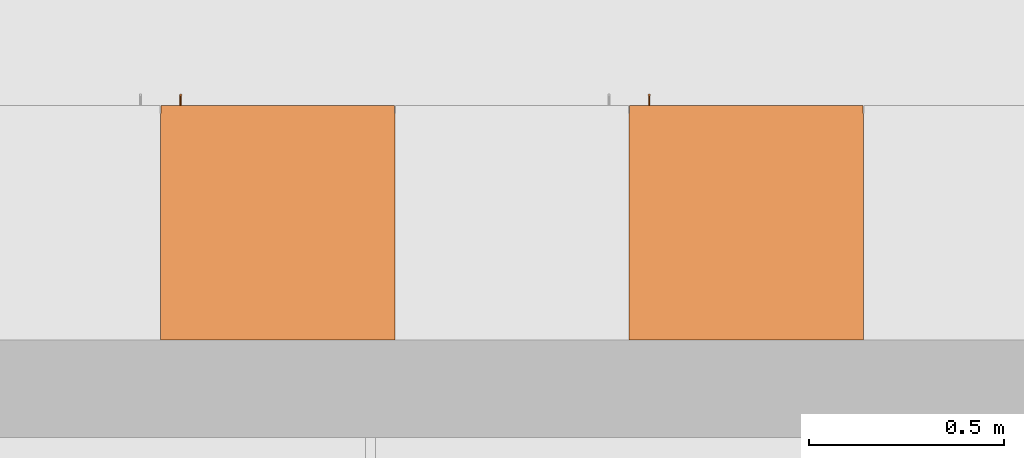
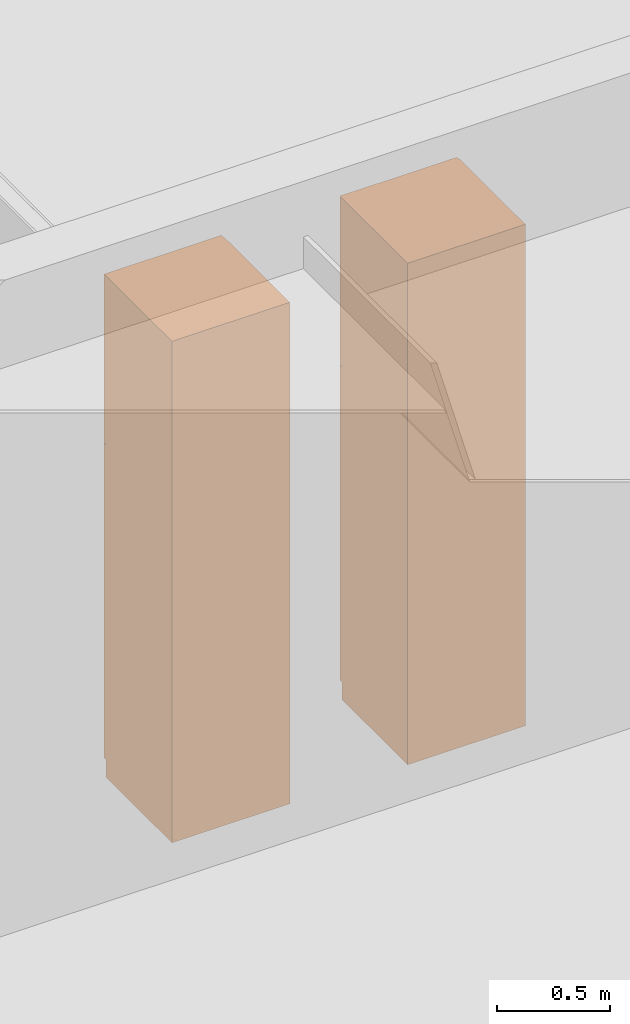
# One storey, part 98 of 167: 2 proxies.
"""IFC2X3 building model written with IfcOpenShell, lengths in millimetres."""

from ifc_helpers import new_model, entity, si_unit, converted_unit, derived_unit, money_unit, direction, frame, origin_with_axes, place, context, subcontext, project, spatial, open_shell, faceted_brep, surface_model, source, transform, mapped, type_object, type_shapes, element, save


model = new_model("IFC2X3")

# Units and contexts
model_context = context("Model", 3, precision=0.01, world=origin_with_axes(), true_north=direction((0.0, 1.0)))
plan_context = context("Plan", 3, precision=0.01, world=origin_with_axes(), true_north=direction((0.0, 1.0)))
body_context = subcontext(model_context, "Body", "Model", "MODEL_VIEW")
ifc_project = project(units=[si_unit("LENGTHUNIT", "METRE", prefix="MILLI"), si_unit("AREAUNIT", "SQUARE_METRE"), si_unit("VOLUMEUNIT", "CUBIC_METRE"), converted_unit("PLANEANGLEUNIT", "DEGREE", entity("IfcPlaneAngleMeasure", 0.0174532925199), si_unit("PLANEANGLEUNIT", "RADIAN"), dimensions=[0, 0, 0, 0, 0, 0, 0]), si_unit("SOLIDANGLEUNIT", "STERADIAN"), money_unit("EUR"), converted_unit("TIMEUNIT", "Year", entity("IfcTimeMeasure", 31556926.0), si_unit("TIMEUNIT", "SECOND"), dimensions=[0, 0, 1, 0, 0, 0, 0]), si_unit("MASSUNIT", "GRAM", prefix="KILO"), si_unit("THERMODYNAMICTEMPERATUREUNIT", "DEGREE_CELSIUS"), si_unit("LUMINOUSINTENSITYUNIT", "LUMEN"), si_unit("ENERGYUNIT", "JOULE", prefix="MEGA"), derived_unit("THERMALCONDUCTANCEUNIT", [(si_unit("POWERUNIT", "WATT"), 1), (si_unit("LENGTHUNIT", "METRE"), -1), (si_unit("THERMODYNAMICTEMPERATUREUNIT", "KELVIN"), -1)]), derived_unit("SPECIFICHEATCAPACITYUNIT", [(si_unit("ENERGYUNIT", "JOULE"), 1), (si_unit("MASSUNIT", "GRAM", prefix="KILO"), -1), (si_unit("THERMODYNAMICTEMPERATUREUNIT", "KELVIN"), -1)]), derived_unit("MASSDENSITYUNIT", [(si_unit("MASSUNIT", "GRAM", prefix="KILO"), 1), (si_unit("VOLUMEUNIT", "CUBIC_METRE"), -1)])], contexts=[model_context, plan_context])

# Site, building, storey
site_placement = place(None, origin_with_axes())
site = spatial("IfcSite", under=ifc_project, at=site_placement, Name="Site", CompositionType="ELEMENT")
building_placement = place(site_placement, origin_with_axes())
building = spatial("IfcBuilding", under=site, at=building_placement, Name="Naam gebouw", CompositionType="ELEMENT")
storey_placement = place(building_placement, origin_with_axes())
storey = spatial("IfcBuildingStorey", under=building, at=storey_placement, Name="Begane grond", CompositionType="ELEMENT", Elevation=0.0)

# Proxies
building_element_proxy_type = type_object("IfcBuildingElementProxyType", Name="Kast hoog 1D 24", PredefinedType="NOTDEFINED")
shared_shape = source(origin_with_axes(), body_context, "Body", "SurfaceModel", [
    faceted_brep([(20.0, 20.0, 1780.0), (580.0, 20.0, 1780.0), (580.0, 20.0, 1800.0), (20.0, 20.0, 1800.0), (20.0, 580.0, 1780.0), (580.0, 580.0, 1780.0), (580.0, 580.0, 1800.0), (20.0, 580.0, 1800.0)], [[[0, 1, 2, 3]], [[0, 4, 5, 1]], [[1, 5, 6, 2]], [[3, 2, 6, 7]], [[4, 0, 3, 7]], [[5, 4, 7, 6]]]),
    faceted_brep([(0.0, 20.0, 0.0), (600.0, 20.0, 0.0), (600.0, 20.0, 90.0), (0.0, 20.0, 90.0), (0.0, 600.0, 0.0), (600.0, 600.0, 0.0), (600.0, 600.0, 90.0), (0.0, 600.0, 90.0)], [[[0, 1, 2, 3]], [[0, 4, 5, 1]], [[1, 5, 6, 2]], [[3, 2, 6, 7]], [[4, 0, 3, 7]], [[5, 4, 7, 6]]]),
    faceted_brep([(0.0, 20.0, 2680.0), (20.0, 20.0, 2680.0), (20.0, 20.0, 2700.0), (0.0, 20.0, 2700.0), (0.0, 600.0, 2680.0), (20.0, 600.0, 2680.0), (580.0, 600.0, 2680.0), (600.0, 600.0, 2680.0), (600.0, 20.0, 2680.0), (580.0, 20.0, 2680.0), (580.0, 20.0, 2700.0), (600.0, 20.0, 2700.0), (600.0, 600.0, 2700.0), (580.0, 600.0, 2700.0), (20.0, 600.0, 2700.0), (0.0, 600.0, 2700.0)], [[[0, 1, 2, 3]], [[0, 4, 5, 6, 7, 8, 9, 1]], [[1, 9, 10, 2]], [[3, 2, 10, 11, 12, 13, 14, 15]], [[4, 0, 3, 15]], [[5, 4, 15, 14]], [[6, 5, 14, 13]], [[7, 6, 13, 12]], [[8, 7, 12, 11]], [[9, 8, 11, 10]]]),
    faceted_brep([(0.0, 20.0, 90.0), (20.0, 20.0, 90.0), (20.0, 20.0, 110.0), (0.0, 20.0, 110.0), (0.0, 600.0, 90.0), (20.0, 600.0, 90.0), (580.0, 600.0, 90.0), (600.0, 600.0, 90.0), (600.0, 20.0, 90.0), (580.0, 20.0, 90.0), (580.0, 20.0, 110.0), (600.0, 20.0, 110.0), (600.0, 600.0, 110.0), (580.0, 600.0, 110.0), (20.0, 600.0, 110.0), (0.0, 600.0, 110.0)], [[[0, 1, 2, 3]], [[0, 4, 5, 6, 7, 8, 9, 1]], [[1, 9, 10, 2]], [[3, 2, 10, 11, 12, 13, 14, 15]], [[4, 0, 3, 15]], [[5, 4, 15, 14]], [[6, 5, 14, 13]], [[7, 6, 13, 12]], [[8, 7, 12, 11]], [[9, 8, 11, 10]]]),
    faceted_brep([(0.0, 20.0, 110.0), (20.0, 20.0, 110.0), (20.0, 20.0, 2680.0), (0.0, 20.0, 2680.0), (0.0, 600.0, 110.0), (600.0, 600.0, 110.0), (600.0, 20.0, 110.0), (580.0, 20.0, 110.0), (580.0, 580.0, 110.0), (20.0, 580.0, 110.0), (20.0, 580.0, 2680.0), (580.0, 580.0, 2680.0), (580.0, 20.0, 2680.0), (600.0, 20.0, 2680.0), (600.0, 600.0, 2680.0), (0.0, 600.0, 2680.0)], [[[0, 1, 2, 3]], [[0, 4, 5, 6, 7, 8, 9, 1]], [[1, 9, 10, 2]], [[3, 2, 10, 11, 12, 13, 14, 15]], [[4, 0, 3, 15]], [[5, 4, 15, 14]], [[6, 5, 14, 13]], [[7, 6, 13, 12]], [[8, 7, 12, 11]], [[9, 8, 11, 10]]]),
    faceted_brep([(580.0, 20.0, 414.0), (580.0, 580.0, 414.0), (580.0, 580.0, 434.0), (580.0, 20.0, 434.0), (20.0, 20.0, 414.0), (20.0, 580.0, 414.0), (20.0, 580.0, 434.0), (20.0, 20.0, 434.0)], [[[0, 1, 2, 3]], [[0, 4, 5, 1]], [[1, 5, 6, 2]], [[3, 2, 6, 7]], [[4, 0, 3, 7]], [[5, 4, 7, 6]]]),
    faceted_brep([(580.0, 20.0, 758.0), (580.0, 580.0, 758.0), (580.0, 580.0, 778.0), (580.0, 20.0, 778.0), (20.0, 20.0, 758.0), (20.0, 580.0, 758.0), (20.0, 580.0, 778.0), (20.0, 20.0, 778.0)], [[[0, 1, 2, 3]], [[0, 4, 5, 1]], [[1, 5, 6, 2]], [[3, 2, 6, 7]], [[4, 0, 3, 7]], [[5, 4, 7, 6]]]),
    faceted_brep([(580.0, 20.0, 1102.0), (580.0, 580.0, 1102.0), (580.0, 580.0, 1122.0), (580.0, 20.0, 1122.0), (20.0, 20.0, 1102.0), (20.0, 580.0, 1102.0), (20.0, 580.0, 1122.0), (20.0, 20.0, 1122.0)], [[[0, 1, 2, 3]], [[0, 4, 5, 1]], [[1, 5, 6, 2]], [[3, 2, 6, 7]], [[4, 0, 3, 7]], [[5, 4, 7, 6]]]),
    faceted_brep([(580.0, 20.0, 1446.0), (580.0, 580.0, 1446.0), (580.0, 580.0, 1466.0), (580.0, 20.0, 1466.0), (20.0, 20.0, 1446.0), (20.0, 580.0, 1446.0), (20.0, 580.0, 1466.0), (20.0, 20.0, 1466.0)], [[[0, 1, 2, 3]], [[0, 4, 5, 1]], [[1, 5, 6, 2]], [[3, 2, 6, 7]], [[4, 0, 3, 7]], [[5, 4, 7, 6]]]),
    faceted_brep([(1.5, 20.0, 91.5), (598.5, 20.0, 91.5), (598.5, 0.0, 91.5), (1.5, 0.0, 91.5), (1.5, 20.0, 1788.5), (598.5, 20.0, 1788.5), (598.5, 0.0, 1788.5), (1.5, 0.0, 1788.5)], [[[0, 1, 2, 3]], [[0, 4, 5, 1]], [[1, 5, 6, 2]], [[3, 2, 6, 7]], [[4, 0, 3, 7]], [[5, 4, 7, 6]]]),
    faceted_brep([(551.397777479, -27.7764571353, 891.5), (551.098076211, -28.5, 891.5), (550.621320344, -29.1213203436, 891.5), (550.0, -29.5980762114, 891.5), (549.276457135, -29.8977774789, 891.5), (548.5, -30.0, 891.5), (547.723542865, -29.8977774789, 891.5), (547.0, -29.5980762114, 891.5), (546.378679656, -29.1213203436, 891.5), (545.901923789, -28.5, 891.5), (545.602222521, -27.7764571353, 891.5), (545.5, -27.0, 891.5), (545.602222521, -26.2235428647, 891.5), (545.901923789, -25.5, 891.5), (546.378679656, -24.8786796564, 891.5), (547.0, -24.4019237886, 891.5), (547.723542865, -24.1022225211, 891.5), (548.5, -24.0, 891.5), (549.276457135, -24.1022225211, 891.5), (550.0, -24.4019237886, 891.5), (550.621320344, -24.8786796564, 891.5), (551.098076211, -25.5, 891.5), (551.397777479, -26.2235428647, 891.5), (551.5, -27.0, 891.5), (551.397777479, -27.7764571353, 1141.5), (551.098076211, -28.5, 1141.5), (550.621320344, -29.1213203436, 1141.5), (550.0, -29.5980762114, 1141.5), (549.276457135, -29.8977774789, 1141.5), (548.5, -30.0, 1141.5), (547.723542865, -29.8977774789, 1141.5), (547.0, -29.5980762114, 1141.5), (546.378679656, -29.1213203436, 1141.5), (545.901923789, -28.5, 1141.5), (545.602222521, -27.7764571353, 1141.5), (545.5, -27.0, 1141.5), (545.602222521, -26.2235428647, 1141.5), (545.901923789, -25.5, 1141.5), (546.378679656, -24.8786796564, 1141.5), (547.0, -24.4019237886, 1141.5), (547.723542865, -24.1022225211, 1141.5), (548.5, -24.0, 1141.5), (549.276457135, -24.1022225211, 1141.5), (550.0, -24.4019237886, 1141.5), (550.621320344, -24.8786796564, 1141.5), (551.098076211, -25.5, 1141.5), (551.397777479, -26.2235428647, 1141.5), (551.5, -27.0, 1141.5)], [[[0, 1, 2, 3, 4, 5, 6, 7, 8, 9, 10, 11, 12, 13, 14, 15, 16, 17, 18, 19, 20, 21, 22, 23]], [[1, 0, 24, 25]], [[2, 1, 25, 26]], [[3, 2, 26, 27]], [[4, 3, 27, 28]], [[5, 4, 28, 29]], [[6, 5, 29, 30]], [[7, 6, 30, 31]], [[8, 7, 31, 32]], [[9, 8, 32, 33]], [[10, 9, 33, 34]], [[11, 10, 34, 35]], [[12, 11, 35, 36]], [[13, 12, 36, 37]], [[14, 13, 37, 38]], [[15, 14, 38, 39]], [[16, 15, 39, 40]], [[17, 16, 40, 41]], [[18, 17, 41, 42]], [[19, 18, 42, 43]], [[20, 19, 43, 44]], [[21, 20, 44, 45]], [[22, 21, 45, 46]], [[23, 22, 46, 47]], [[0, 23, 47, 24]], [[24, 47, 46, 45, 44, 43, 42, 41, 40, 39, 38, 37, 36, 35, 34, 33, 32, 31, 30, 29, 28, 27, 26, 25]]]),
    surface_model("IfcShellBasedSurfaceModel", [(549.147047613, -24.070609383, 914.085185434), (548.5, -24.0, 914.0), (548.5, 0.0, 914.0), (549.147047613, 0.0, 914.085185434), (547.852952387, -24.070609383, 914.085185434), (547.852952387, 0.0, 914.085185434), (547.25, 0.0, 914.334936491), (546.732233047, 0.0, 914.732233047), (546.334936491, 0.0, 915.25), (546.085185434, 0.0, 915.852952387), (546.0, 0.0, 916.5), (546.085185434, 0.0, 917.147047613), (546.334936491, 0.0, 917.75), (546.732233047, 0.0, 918.267766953), (547.25, 0.0, 918.665063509), (547.852952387, 0.0, 918.914814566), (548.5, 0.0, 919.0), (549.147047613, 0.0, 918.914814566), (549.75, 0.0, 918.665063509), (550.267766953, 0.0, 918.267766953), (550.665063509, 0.0, 917.75), (550.914814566, 0.0, 917.147047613), (551.0, 0.0, 916.5), (550.914814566, 0.0, 915.852952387), (550.665063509, 0.0, 915.25), (550.267766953, 0.0, 914.732233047), (549.75, 0.0, 914.334936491), (549.75, -24.2728219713, 914.334936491), (547.25, -24.2728219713, 914.334936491), (546.732233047, -24.5761600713, 914.732233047), (546.334936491, -24.9233440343, 915.25), (546.085185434, -25.2199239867, 915.852952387), (546.0, -25.3416876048, 916.5), (546.085185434, -25.2199239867, 917.147047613), (546.334936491, -24.9233440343, 917.75), (546.732233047, -24.5761600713, 918.267766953), (547.25, -24.2728219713, 918.665063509), (547.852952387, -24.070609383, 918.914814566), (548.5, -24.0, 919.0), (549.147047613, -24.070609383, 918.914814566), (549.75, -24.2728219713, 918.665063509), (550.267766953, -24.5761600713, 918.267766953), (550.665063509, -24.9233440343, 917.75), (550.914814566, -25.2199239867, 917.147047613), (551.0, -25.3416876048, 916.5), (550.914814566, -25.2199239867, 915.852952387), (550.665063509, -24.9233440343, 915.25), (550.267766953, -24.5761600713, 914.732233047)], [open_shell([[[0, 1, 2, 3]], [[1, 4, 5, 2]], [[3, 2, 5, 6, 7, 8, 9, 10, 11, 12, 13, 14, 15, 16, 17, 18, 19, 20, 21, 22, 23, 24, 25, 26]], [[27, 0, 3, 26]], [[4, 28, 6, 5]], [[28, 29, 7, 6]], [[29, 30, 8, 7]], [[30, 31, 9, 8]], [[31, 32, 10, 9]], [[32, 33, 11, 10]], [[33, 34, 12, 11]], [[34, 35, 13, 12]], [[35, 36, 14, 13]], [[36, 37, 15, 14]], [[37, 38, 16, 15]], [[38, 39, 17, 16]], [[39, 40, 18, 17]], [[40, 41, 19, 18]], [[41, 42, 20, 19]], [[42, 43, 21, 20]], [[43, 44, 22, 21]], [[44, 45, 23, 22]], [[45, 46, 24, 23]], [[46, 47, 25, 24]], [[47, 27, 26, 25]]])]),
    surface_model("IfcShellBasedSurfaceModel", [(549.147047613, -24.070609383, 1114.08518543), (548.5, -24.0, 1114.0), (548.5, 0.0, 1114.0), (549.147047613, 0.0, 1114.08518543), (547.852952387, -24.070609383, 1114.08518543), (547.852952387, 0.0, 1114.08518543), (547.25, 0.0, 1114.33493649), (546.732233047, 0.0, 1114.73223305), (546.334936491, 0.0, 1115.25), (546.085185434, 0.0, 1115.85295239), (546.0, 0.0, 1116.5), (546.085185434, 0.0, 1117.14704761), (546.334936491, 0.0, 1117.75), (546.732233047, 0.0, 1118.26776695), (547.25, 0.0, 1118.66506351), (547.852952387, 0.0, 1118.91481457), (548.5, 0.0, 1119.0), (549.147047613, 0.0, 1118.91481457), (549.75, 0.0, 1118.66506351), (550.267766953, 0.0, 1118.26776695), (550.665063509, 0.0, 1117.75), (550.914814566, 0.0, 1117.14704761), (551.0, 0.0, 1116.5), (550.914814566, 0.0, 1115.85295239), (550.665063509, 0.0, 1115.25), (550.267766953, 0.0, 1114.73223305), (549.75, 0.0, 1114.33493649), (549.75, -24.2728219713, 1114.33493649), (547.25, -24.2728219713, 1114.33493649), (546.732233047, -24.5761600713, 1114.73223305), (546.334936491, -24.9233440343, 1115.25), (546.085185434, -25.2199239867, 1115.85295239), (546.0, -25.3416876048, 1116.5), (546.085185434, -25.2199239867, 1117.14704761), (546.334936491, -24.9233440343, 1117.75), (546.732233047, -24.5761600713, 1118.26776695), (547.25, -24.2728219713, 1118.66506351), (547.852952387, -24.070609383, 1118.91481457), (548.5, -24.0, 1119.0), (549.147047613, -24.070609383, 1118.91481457), (549.75, -24.2728219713, 1118.66506351), (550.267766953, -24.5761600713, 1118.26776695), (550.665063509, -24.9233440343, 1117.75), (550.914814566, -25.2199239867, 1117.14704761), (551.0, -25.3416876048, 1116.5), (550.914814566, -25.2199239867, 1115.85295239), (550.665063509, -24.9233440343, 1115.25), (550.267766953, -24.5761600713, 1114.73223305)], [open_shell([[[0, 1, 2, 3]], [[1, 4, 5, 2]], [[3, 2, 5, 6, 7, 8, 9, 10, 11, 12, 13, 14, 15, 16, 17, 18, 19, 20, 21, 22, 23, 24, 25, 26]], [[27, 0, 3, 26]], [[4, 28, 6, 5]], [[28, 29, 7, 6]], [[29, 30, 8, 7]], [[30, 31, 9, 8]], [[31, 32, 10, 9]], [[32, 33, 11, 10]], [[33, 34, 12, 11]], [[34, 35, 13, 12]], [[35, 36, 14, 13]], [[36, 37, 15, 14]], [[37, 38, 16, 15]], [[38, 39, 17, 16]], [[39, 40, 18, 17]], [[40, 41, 19, 18]], [[41, 42, 20, 19]], [[42, 43, 21, 20]], [[43, 44, 22, 21]], [[44, 45, 23, 22]], [[45, 46, 24, 23]], [[46, 47, 25, 24]], [[47, 27, 26, 25]]])]),
    faceted_brep([(1.5, 20.0, 1791.5), (598.5, 20.0, 1791.5), (598.5, 0.0, 1791.5), (1.5, 0.0, 1791.5), (1.5, 20.0, 2698.5), (598.5, 20.0, 2698.5), (598.5, 0.0, 2698.5), (1.5, 0.0, 2698.5)], [[[0, 1, 2, 3]], [[0, 4, 5, 1]], [[1, 5, 6, 2]], [[3, 2, 6, 7]], [[4, 0, 3, 7]], [[5, 4, 7, 6]]]),
    faceted_brep([(551.397777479, -27.7764571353, 1841.5), (551.098076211, -28.5, 1841.5), (550.621320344, -29.1213203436, 1841.5), (550.0, -29.5980762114, 1841.5), (549.276457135, -29.8977774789, 1841.5), (548.5, -30.0, 1841.5), (547.723542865, -29.8977774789, 1841.5), (547.0, -29.5980762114, 1841.5), (546.378679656, -29.1213203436, 1841.5), (545.901923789, -28.5, 1841.5), (545.602222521, -27.7764571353, 1841.5), (545.5, -27.0, 1841.5), (545.602222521, -26.2235428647, 1841.5), (545.901923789, -25.5, 1841.5), (546.378679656, -24.8786796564, 1841.5), (547.0, -24.4019237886, 1841.5), (547.723542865, -24.1022225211, 1841.5), (548.5, -24.0, 1841.5), (549.276457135, -24.1022225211, 1841.5), (550.0, -24.4019237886, 1841.5), (550.621320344, -24.8786796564, 1841.5), (551.098076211, -25.5, 1841.5), (551.397777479, -26.2235428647, 1841.5), (551.5, -27.0, 1841.5), (551.397777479, -27.7764571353, 2091.5), (551.098076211, -28.5, 2091.5), (550.621320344, -29.1213203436, 2091.5), (550.0, -29.5980762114, 2091.5), (549.276457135, -29.8977774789, 2091.5), (548.5, -30.0, 2091.5), (547.723542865, -29.8977774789, 2091.5), (547.0, -29.5980762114, 2091.5), (546.378679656, -29.1213203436, 2091.5), (545.901923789, -28.5, 2091.5), (545.602222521, -27.7764571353, 2091.5), (545.5, -27.0, 2091.5), (545.602222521, -26.2235428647, 2091.5), (545.901923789, -25.5, 2091.5), (546.378679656, -24.8786796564, 2091.5), (547.0, -24.4019237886, 2091.5), (547.723542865, -24.1022225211, 2091.5), (548.5, -24.0, 2091.5), (549.276457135, -24.1022225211, 2091.5), (550.0, -24.4019237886, 2091.5), (550.621320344, -24.8786796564, 2091.5), (551.098076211, -25.5, 2091.5), (551.397777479, -26.2235428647, 2091.5), (551.5, -27.0, 2091.5)], [[[0, 1, 2, 3, 4, 5, 6, 7, 8, 9, 10, 11, 12, 13, 14, 15, 16, 17, 18, 19, 20, 21, 22, 23]], [[1, 0, 24, 25]], [[2, 1, 25, 26]], [[3, 2, 26, 27]], [[4, 3, 27, 28]], [[5, 4, 28, 29]], [[6, 5, 29, 30]], [[7, 6, 30, 31]], [[8, 7, 31, 32]], [[9, 8, 32, 33]], [[10, 9, 33, 34]], [[11, 10, 34, 35]], [[12, 11, 35, 36]], [[13, 12, 36, 37]], [[14, 13, 37, 38]], [[15, 14, 38, 39]], [[16, 15, 39, 40]], [[17, 16, 40, 41]], [[18, 17, 41, 42]], [[19, 18, 42, 43]], [[20, 19, 43, 44]], [[21, 20, 44, 45]], [[22, 21, 45, 46]], [[23, 22, 46, 47]], [[0, 23, 47, 24]], [[24, 47, 46, 45, 44, 43, 42, 41, 40, 39, 38, 37, 36, 35, 34, 33, 32, 31, 30, 29, 28, 27, 26, 25]]]),
    surface_model("IfcShellBasedSurfaceModel", [(549.147047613, -24.070609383, 1864.08518543), (548.5, -24.0, 1864.0), (548.5, 0.0, 1864.0), (549.147047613, 0.0, 1864.08518543), (547.852952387, -24.070609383, 1864.08518543), (547.852952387, 0.0, 1864.08518543), (547.25, 0.0, 1864.33493649), (546.732233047, 0.0, 1864.73223305), (546.334936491, 0.0, 1865.25), (546.085185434, 0.0, 1865.85295239), (546.0, 0.0, 1866.5), (546.085185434, 0.0, 1867.14704761), (546.334936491, 0.0, 1867.75), (546.732233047, 0.0, 1868.26776695), (547.25, 0.0, 1868.66506351), (547.852952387, 0.0, 1868.91481457), (548.5, 0.0, 1869.0), (549.147047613, 0.0, 1868.91481457), (549.75, 0.0, 1868.66506351), (550.267766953, 0.0, 1868.26776695), (550.665063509, 0.0, 1867.75), (550.914814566, 0.0, 1867.14704761), (551.0, 0.0, 1866.5), (550.914814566, 0.0, 1865.85295239), (550.665063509, 0.0, 1865.25), (550.267766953, 0.0, 1864.73223305), (549.75, 0.0, 1864.33493649), (549.75, -24.2728219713, 1864.33493649), (547.25, -24.2728219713, 1864.33493649), (546.732233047, -24.5761600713, 1864.73223305), (546.334936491, -24.9233440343, 1865.25), (546.085185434, -25.2199239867, 1865.85295239), (546.0, -25.3416876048, 1866.5), (546.085185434, -25.2199239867, 1867.14704761), (546.334936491, -24.9233440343, 1867.75), (546.732233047, -24.5761600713, 1868.26776695), (547.25, -24.2728219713, 1868.66506351), (547.852952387, -24.070609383, 1868.91481457), (548.5, -24.0, 1869.0), (549.147047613, -24.070609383, 1868.91481457), (549.75, -24.2728219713, 1868.66506351), (550.267766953, -24.5761600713, 1868.26776695), (550.665063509, -24.9233440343, 1867.75), (550.914814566, -25.2199239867, 1867.14704761), (551.0, -25.3416876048, 1866.5), (550.914814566, -25.2199239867, 1865.85295239), (550.665063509, -24.9233440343, 1865.25), (550.267766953, -24.5761600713, 1864.73223305)], [open_shell([[[0, 1, 2, 3]], [[1, 4, 5, 2]], [[3, 2, 5, 6, 7, 8, 9, 10, 11, 12, 13, 14, 15, 16, 17, 18, 19, 20, 21, 22, 23, 24, 25, 26]], [[27, 0, 3, 26]], [[4, 28, 6, 5]], [[28, 29, 7, 6]], [[29, 30, 8, 7]], [[30, 31, 9, 8]], [[31, 32, 10, 9]], [[32, 33, 11, 10]], [[33, 34, 12, 11]], [[34, 35, 13, 12]], [[35, 36, 14, 13]], [[36, 37, 15, 14]], [[37, 38, 16, 15]], [[38, 39, 17, 16]], [[39, 40, 18, 17]], [[40, 41, 19, 18]], [[41, 42, 20, 19]], [[42, 43, 21, 20]], [[43, 44, 22, 21]], [[44, 45, 23, 22]], [[45, 46, 24, 23]], [[46, 47, 25, 24]], [[47, 27, 26, 25]]])]),
    surface_model("IfcShellBasedSurfaceModel", [(549.147047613, -24.070609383, 2064.08518543), (548.5, -24.0, 2064.0), (548.5, 0.0, 2064.0), (549.147047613, 0.0, 2064.08518543), (547.852952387, -24.070609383, 2064.08518543), (547.852952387, 0.0, 2064.08518543), (547.25, 0.0, 2064.33493649), (546.732233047, 0.0, 2064.73223305), (546.334936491, 0.0, 2065.25), (546.085185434, 0.0, 2065.85295239), (546.0, 0.0, 2066.5), (546.085185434, 0.0, 2067.14704761), (546.334936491, 0.0, 2067.75), (546.732233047, 0.0, 2068.26776695), (547.25, 0.0, 2068.66506351), (547.852952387, 0.0, 2068.91481457), (548.5, 0.0, 2069.0), (549.147047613, 0.0, 2068.91481457), (549.75, 0.0, 2068.66506351), (550.267766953, 0.0, 2068.26776695), (550.665063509, 0.0, 2067.75), (550.914814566, 0.0, 2067.14704761), (551.0, 0.0, 2066.5), (550.914814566, 0.0, 2065.85295239), (550.665063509, 0.0, 2065.25), (550.267766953, 0.0, 2064.73223305), (549.75, 0.0, 2064.33493649), (549.75, -24.2728219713, 2064.33493649), (547.25, -24.2728219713, 2064.33493649), (546.732233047, -24.5761600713, 2064.73223305), (546.334936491, -24.9233440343, 2065.25), (546.085185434, -25.2199239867, 2065.85295239), (546.0, -25.3416876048, 2066.5), (546.085185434, -25.2199239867, 2067.14704761), (546.334936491, -24.9233440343, 2067.75), (546.732233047, -24.5761600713, 2068.26776695), (547.25, -24.2728219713, 2068.66506351), (547.852952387, -24.070609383, 2068.91481457), (548.5, -24.0, 2069.0), (549.147047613, -24.070609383, 2068.91481457), (549.75, -24.2728219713, 2068.66506351), (550.267766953, -24.5761600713, 2068.26776695), (550.665063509, -24.9233440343, 2067.75), (550.914814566, -25.2199239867, 2067.14704761), (551.0, -25.3416876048, 2066.5), (550.914814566, -25.2199239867, 2065.85295239), (550.665063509, -24.9233440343, 2065.25), (550.267766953, -24.5761600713, 2064.73223305)], [open_shell([[[0, 1, 2, 3]], [[1, 4, 5, 2]], [[3, 2, 5, 6, 7, 8, 9, 10, 11, 12, 13, 14, 15, 16, 17, 18, 19, 20, 21, 22, 23, 24, 25, 26]], [[27, 0, 3, 26]], [[4, 28, 6, 5]], [[28, 29, 7, 6]], [[29, 30, 8, 7]], [[30, 31, 9, 8]], [[31, 32, 10, 9]], [[32, 33, 11, 10]], [[33, 34, 12, 11]], [[34, 35, 13, 12]], [[35, 36, 14, 13]], [[36, 37, 15, 14]], [[37, 38, 16, 15]], [[38, 39, 17, 16]], [[39, 40, 18, 17]], [[40, 41, 19, 18]], [[41, 42, 20, 19]], [[42, 43, 21, 20]], [[43, 44, 22, 21]], [[44, 45, 23, 22]], [[45, 46, 24, 23]], [[46, 47, 25, 24]], [[47, 27, 26, 25]]])]),
])
type_shapes(building_element_proxy_type, [shared_shape])
for number, where, z_axis, x_axis in (
    (1, (5200.0, 36725.0, 0.0), (0.0, 0.0, 1.0), (-1.0, 0.0, 0.0)),
    (2, (6400.0, 36725.0, 0.0), (0.0, 0.0, 1.0), (-1.0, 0.0, 0.0)),
):
    element("IfcBuildingElementProxy", number, at=place(storey_placement, frame(where, z_axis=z_axis, x_axis=x_axis)), inside=storey, type_object=building_element_proxy_type, Name="__Object-x", context=body_context, shape_type="MappedRepresentation", body=[
        mapped(shared_shape, transform((0.0, 0.0, 0.0))),
    ])

save(model, "model.ifc")
